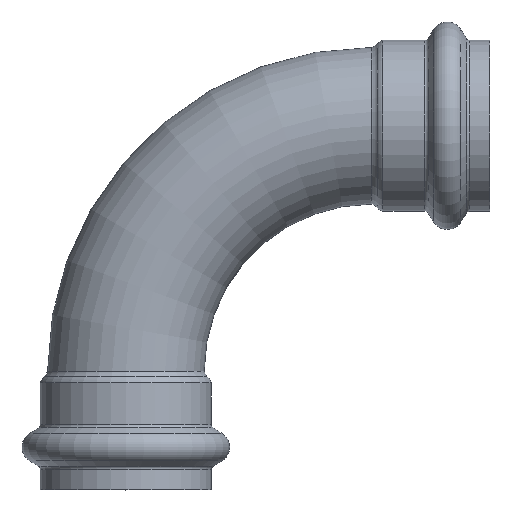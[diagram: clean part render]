
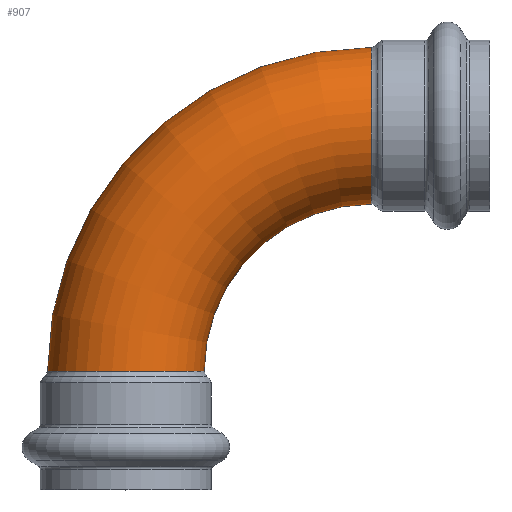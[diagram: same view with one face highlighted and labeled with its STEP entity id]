
A CAD part, top view. The second image highlights one B-rep face of the part: STEP entity #907.
In plain terms, the highlighted toroidal (fillet/blend) face has major radius 94.577 mm and minor radius 30.163 mm.
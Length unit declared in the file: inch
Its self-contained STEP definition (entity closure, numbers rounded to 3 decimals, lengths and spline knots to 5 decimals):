
#125=FACE_OUTER_BOUND('',#164,.T.);
#164=EDGE_LOOP('',(#706,#707,#708,#709,#710,#711,#712,#713));
#188=CIRCLE('',#952,1.1875);
#189=CIRCLE('',#953,1.1875);
#190=CIRCLE('',#954,1.1875);
#241=CIRCLE('',#1022,1.1875);
#242=CIRCLE('',#1023,1.1875);
#246=CIRCLE('',#1027,1.1875);
#256=CIRCLE('',#1041,2.536);
#308=VERTEX_POINT('',#1496);
#309=VERTEX_POINT('',#1498);
#310=VERTEX_POINT('',#1500);
#355=VERTEX_POINT('',#1623);
#356=VERTEX_POINT('',#1624);
#357=VERTEX_POINT('',#1626);
#414=EDGE_CURVE('',#309,#308,#188,.T.);
#415=EDGE_CURVE('',#310,#309,#189,.T.);
#416=EDGE_CURVE('',#308,#310,#190,.T.);
#476=EDGE_CURVE('',#355,#356,#241,.T.);
#477=EDGE_CURVE('',#357,#355,#242,.T.);
#481=EDGE_CURVE('',#356,#357,#246,.T.);
#492=EDGE_CURVE('',#309,#356,#256,.T.);
#706=ORIENTED_EDGE('',*,*,#415,.T.);
#707=ORIENTED_EDGE('',*,*,#492,.T.);
#708=ORIENTED_EDGE('',*,*,#481,.T.);
#709=ORIENTED_EDGE('',*,*,#477,.T.);
#710=ORIENTED_EDGE('',*,*,#476,.T.);
#711=ORIENTED_EDGE('',*,*,#492,.F.);
#712=ORIENTED_EDGE('',*,*,#414,.T.);
#713=ORIENTED_EDGE('',*,*,#416,.T.);
#838=TOROIDAL_SURFACE('',#1040,3.7235,1.1875);
#907=ADVANCED_FACE('',(#125),#838,.T.);
#952=AXIS2_PLACEMENT_3D('',#1499,#1136,#1137);
#953=AXIS2_PLACEMENT_3D('',#1501,#1138,#1139);
#954=AXIS2_PLACEMENT_3D('',#1502,#1140,#1141);
#1022=AXIS2_PLACEMENT_3D('',#1625,#1285,#1286);
#1023=AXIS2_PLACEMENT_3D('',#1627,#1287,#1288);
#1027=AXIS2_PLACEMENT_3D('',#1633,#1295,#1296);
#1040=AXIS2_PLACEMENT_3D('',#1654,#1322,#1323);
#1041=AXIS2_PLACEMENT_3D('',#1655,#1324,#1325);
#1136=DIRECTION('center_axis',(0.,1.,0.));
#1137=DIRECTION('ref_axis',(1.,0.,0.));
#1138=DIRECTION('center_axis',(0.,1.,0.));
#1139=DIRECTION('ref_axis',(1.,0.,0.));
#1140=DIRECTION('center_axis',(0.,1.,0.));
#1141=DIRECTION('ref_axis',(1.,0.,0.));
#1285=DIRECTION('center_axis',(-1.,0.,0.));
#1286=DIRECTION('ref_axis',(0.,-1.,0.));
#1287=DIRECTION('center_axis',(-1.,0.,0.));
#1288=DIRECTION('ref_axis',(0.,-1.,0.));
#1295=DIRECTION('center_axis',(-1.,0.,0.));
#1296=DIRECTION('ref_axis',(0.,-1.,0.));
#1322=DIRECTION('center_axis',(0.,0.,1.));
#1323=DIRECTION('ref_axis',(1.,0.,0.));
#1324=DIRECTION('center_axis',(0.,0.,-1.));
#1325=DIRECTION('ref_axis',(1.,0.,0.));
#1496=CARTESIAN_POINT('',(0.,-3.7235,-1.1875));
#1498=CARTESIAN_POINT('',(1.1875,-3.7235,0.));
#1499=CARTESIAN_POINT('Origin',(0.,-3.7235,0.));
#1500=CARTESIAN_POINT('',(-1.1875,-3.7235,0.));
#1501=CARTESIAN_POINT('Origin',(0.,-3.7235,0.));
#1502=CARTESIAN_POINT('Origin',(0.,-3.7235,0.));
#1623=CARTESIAN_POINT('',(3.7235,1.1875,0.));
#1624=CARTESIAN_POINT('',(3.7235,-1.1875,0.));
#1625=CARTESIAN_POINT('Origin',(3.7235,0.,0.));
#1626=CARTESIAN_POINT('',(3.7235,0.,1.1875));
#1627=CARTESIAN_POINT('Origin',(3.7235,0.,0.));
#1633=CARTESIAN_POINT('Origin',(3.7235,0.,0.));
#1654=CARTESIAN_POINT('Origin',(3.7235,-3.7235,0.));
#1655=CARTESIAN_POINT('Origin',(3.7235,-3.7235,0.));
